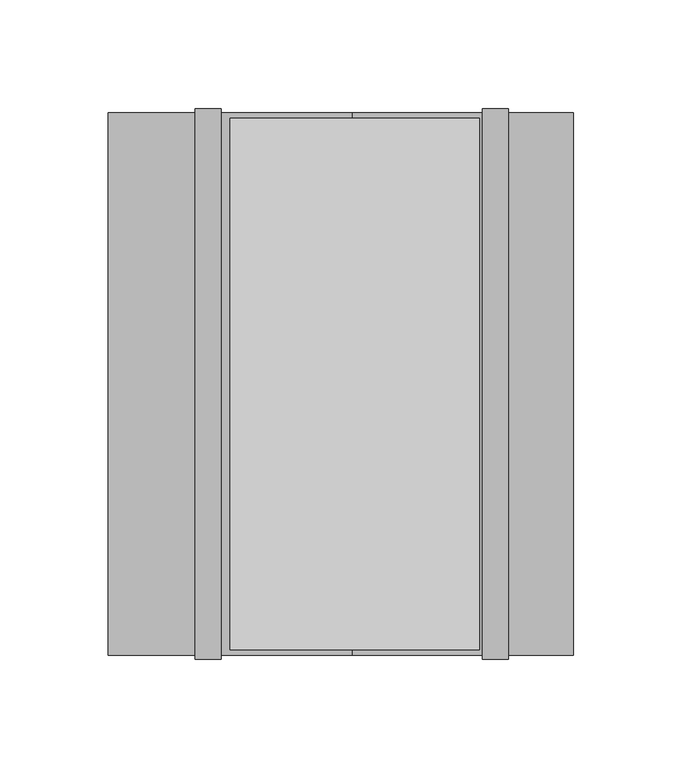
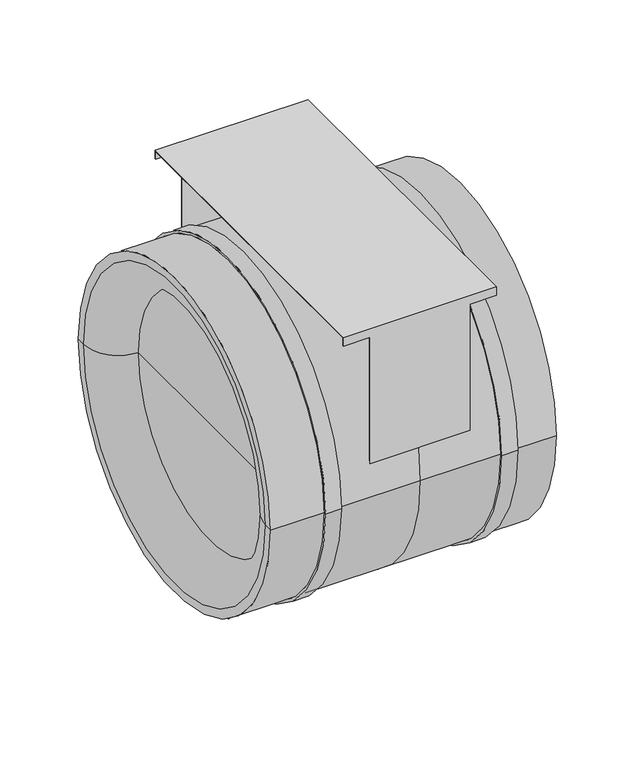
"""IFC4 building model written with IfcOpenShell, lengths in millimetres: unitary equipment geometry, VE-Wentylator-ParaForma-Harmann-JETTEC-Nawiewny : 250/1600S."""

from ifc_helpers import new_model, si_unit, point, frame, frame_2d, origin, place, context, project, spatial, polyline, circle_curve, ellipse_curve, trimmed, segment, composite_curve, outline, extrude, source, transform, mapped, element, save
from ifc_brep_helpers import plane_surface, cylinder_surface, revolved_surface, advanced_brep


def unitary_equipment_25998c49(model_context):
    return source(origin(), model_context, "Body", "SolidModel", [
        extrude(outline(composite_curve([segment(polyline([(-45.5, -47.7), (-45.5, 47.7)]), True, "CONTINUOUS"), segment(trimmed(circle_curve(frame_2d((-40.5, 47.7)), 5.0), [point((-45.5, 47.7))], [point((-40.5, 52.7))], False, "CARTESIAN"), True, "CONTINUOUS"), segment(polyline([(-40.5, 52.7), (40.5, 52.7)]), True, "CONTINUOUS"), segment(trimmed(circle_curve(frame_2d((40.5, 47.7)), 5.0), [point((40.5, 52.7))], [point((45.5, 47.7))], False, "CARTESIAN"), True, "CONTINUOUS"), segment(polyline([(45.5, 47.7), (45.5, -47.7)]), True, "CONTINUOUS"), segment(trimmed(circle_curve(frame_2d((40.5, -47.7)), 5.0), [point((45.5, -47.7))], [point((40.5, -52.7))], False, "CARTESIAN"), True, "CONTINUOUS"), segment(polyline([(40.5, -52.7), (-40.5, -52.7)]), True, "CONTINUOUS"), segment(trimmed(circle_curve(frame_2d((-40.5, -47.7)), 5.0), [point((-40.5, -52.7))], [point((-45.5, -47.7))], False, "CARTESIAN"), True, "CONTINUOUS")], self_intersect=False)), frame((0.0, -55.0, 0.0), z_axis=(0.0, 1.0, 0.0), x_axis=(0.0, 0.0, 1.0)), (0.0, 0.0, 1.0), 45.0),
        advanced_brep(
        [(58.8, 122.5, 125.0), (58.8, 122.5, 131.8), (58.8, -122.5, 131.8), (58.8, -122.5, 125.0), (58.8, -121.7, 125.0), (58.8, -121.7, 131.0), (58.8, 121.7, 131.0), (58.8, 121.7, 125.0), (38.8, 121.7, 125.0), (38.8, 122.5, 125.0), (-56.2, 121.7, 131.0), (-56.2, 121.7, 125.0), (-36.2, 121.7, 125.0), (-36.2, 121.7, 28.5326129), (38.8, 121.7, 28.5326129), (-56.2, -121.7, 131.0), (38.8, -121.7, 125.0), (38.8, -121.7, 28.5326129), (-36.2, -121.7, 28.5326129), (-36.2, -121.7, 125.0), (-56.2, -121.7, 125.0), (38.8, -122.5, 125.0), (-56.2, -122.5, 131.8), (-56.2, -122.5, 125.0), (-36.2, -122.5, 125.0), (-36.2, -122.5, 24.8746859), (38.8, -122.5, 24.8746859), (-56.2, 122.5, 131.8), (38.8, 122.5, 24.8746859), (-36.2, 122.5, 24.8746859), (-36.2, 122.5, 125.0), (-56.2, 122.5, 125.0)],
        [
            (0, 1),
            (1, 2),
            (2, 3),
            (3, 4),
            (4, 5),
            (5, 6),
            (6, 7),
            (7, 0),
            (7, 8),
            (8, 9),
            (9, 0),
            (6, 10),
            (10, 11),
            (11, 12),
            (12, 13),
            (13, 14),
            (14, 8),
            (5, 15),
            (15, 10),
            (4, 16),
            (16, 17),
            (17, 18),
            (18, 19),
            (19, 20),
            (20, 15),
            (3, 21),
            (21, 16),
            (2, 22),
            (22, 23),
            (23, 24),
            (24, 25),
            (25, 26),
            (26, 21),
            (1, 27),
            (27, 22),
            (9, 28),
            (28, 29),
            (29, 30),
            (30, 31),
            (31, 27),
            (29, 13, circle_curve(frame((-36.2, 0.0, 0.0), z_axis=(1.0, 0.0, 0.0), x_axis=(0.0, 1.0, 0.0)), 125.0)),
            (12, 30),
            (18, 25, circle_curve(frame((-36.2, 0.0, 0.0), z_axis=(1.0, 0.0, 0.0), x_axis=(0.0, 1.0, 0.0)), 125.0)),
            (24, 19),
            (14, 28, circle_curve(frame((38.8, 0.0, 0.0), z_axis=(-1.0, 0.0, 0.0), x_axis=(0.0, 1.0, 0.0)), 125.0)),
            (26, 17, circle_curve(frame((38.8, 0.0, 0.0), z_axis=(-1.0, 0.0, 0.0), x_axis=(0.0, 1.0, 0.0)), 125.0)),
            (31, 11),
            (20, 23),
        ],
        [
            plane_surface(frame((58.8, 0.0, 0.0), z_axis=(1.0, 0.0, 0.0), x_axis=(0.0, 0.0, 1.0))),
            plane_surface(frame((38.8, 122.5, 125.0), z_axis=(0.0, 0.0, -1.0), x_axis=(1.0, 0.0, 0.0))),
            plane_surface(frame((38.8, 121.7, 125.0), z_axis=(0.0, -1.0, 0.0), x_axis=(1.0, 0.0, 0.0))),
            plane_surface(frame((38.8, -113.0382235, 131.0), z_axis=(0.0, 0.0, -1.0), x_axis=(1.0, 0.0, 0.0))),
            plane_surface(frame((38.8, -121.7, 131.0), z_axis=(0.0, 1.0, 0.0), x_axis=(1.0, 0.0, 0.0))),
            plane_surface(frame((38.8, -121.7, 125.0), z_axis=(0.0, 0.0, -1.0), x_axis=(1.0, 0.0, 0.0))),
            plane_surface(frame((38.8, -122.5, 125.0), z_axis=(0.0, -1.0, 0.0), x_axis=(1.0, 0.0, 0.0))),
            plane_surface(frame((38.8, 112.5, 131.8), z_axis=(0.0, 0.0, 1.0), x_axis=(1.0, 0.0, 0.0))),
            plane_surface(frame((38.8, 122.5, 131.8), z_axis=(0.0, 1.0, 0.0), x_axis=(1.0, 0.0, 0.0))),
            plane_surface(frame((-36.2, 0.0, 0.0), z_axis=(-1.0, 0.0, 0.0), x_axis=(0.0, 0.0, 1.0))),
            plane_surface(frame((38.8, 0.0, 0.0), z_axis=(1.0, 0.0, 0.0), x_axis=(0.0, 0.0, 1.0))),
            revolved_surface(polyline([(-36.2, 125.0, 0.0), (38.8, 125.0, 0.0)]), (-36.2, 0.0, 0.0), (-1.0, 0.0, 0.0)),
            plane_surface(frame((-56.2, 0.0, 0.0), z_axis=(-1.0, 0.0, 0.0), x_axis=(0.0, 0.0, 1.0))),
            plane_surface(frame((-56.2, 122.5, 125.0), z_axis=(0.0, 0.0, -1.0), x_axis=(1.0, 0.0, 0.0))),
            plane_surface(frame((-56.2, -121.7, 125.0), z_axis=(0.0, 0.0, -1.0), x_axis=(1.0, 0.0, 0.0))),
        ],
        [
            (0, [[1, 2, 3, 4, 5, 6, 7, 8]]),
            (1, [[-8, 9, 10, 11]]),
            (2, [[-7, 12, 13, 14, 15, 16, 17, -9]]),
            (3, [[-12, -6, 18, 19]]),
            (4, [[-18, -5, 20, 21, 22, 23, 24, 25]]),
            (5, [[-4, 26, 27, -20]]),
            (6, [[-3, 28, 29, 30, 31, 32, 33, -26]]),
            (7, [[-28, -2, 34, 35]]),
            (8, [[-34, -1, -11, 36, 37, 38, 39, 40]]),
            (9, [[41, -15, 42, -38]]),
            (9, [[43, -31, 44, -23]]),
            (10, [[45, -36, -10, -17]]),
            (10, [[46, -21, -27, -33]]),
            (11, [[-41, -37, -45, -16]]),
            (11, [[-43, -22, -46, -32]]),
            (12, [[47, -13, -19, -25, 48, -29, -35, -40]]),
            (13, [[-47, -39, -42, -14]]),
            (14, [[-48, -24, -44, -30]]),
        ],
    ),
        advanced_brep(
        [(-60.3, 125.0, 0.0), (0.0, 125.0, 0.0), (0.0, -125.0, 0.0), (-60.3, -125.0, 0.0), (-112.3, -125.0, 0.0), (-112.3, 125.0, 0.0), (-72.3, 125.0, 0.0), (-72.3, -125.0, 0.0), (-112.3, -118.5, 0.0), (-112.3, 118.5, 0.0), (-86.3, -92.5, 0.0), (-86.3, 92.5, 0.0), (-86.3, 0.0, 0.0), (102.3, -125.0, 0.0), (102.3, 125.0, 0.0), (102.3, 0.0, 0.0), (72.3, -125.0, 0.0), (72.3, 125.0, 0.0), (60.3, 125.0, 0.0), (60.3, -125.0, 0.0), (-60.3, -127.0, 0.0), (-60.3, 127.0, 0.0), (-72.3, -127.0, 0.0), (-72.3, 127.0, 0.0), (72.3, -127.0, 0.0), (72.3, 127.0, 0.0), (60.3, -127.0, 0.0), (60.3, 127.0, 0.0)],
        [
            (0, 1),
            (1, 2, circle_curve(frame((0.0, 0.0, 0.0), z_axis=(-1.0, 0.0, 0.0), x_axis=(0.0, 1.0, 0.0)), 125.0)),
            (2, 3),
            (3, 0, circle_curve(frame((-60.3, 0.0, 0.0), z_axis=(1.0, 0.0, 0.0), x_axis=(0.0, 1.0, 0.0)), 125.0)),
            (0, 3, circle_curve(frame((-60.3, 0.0, 0.0), z_axis=(1.0, 0.0, 0.0), x_axis=(0.0, 1.0, 0.0)), 125.0)),
            (2, 1, circle_curve(frame((0.0, 0.0, 0.0), z_axis=(-1.0, 0.0, 0.0), x_axis=(0.0, 1.0, 0.0)), 125.0)),
            (4, 5, circle_curve(frame((-112.3, 0.0, 0.0), z_axis=(1.0, 0.0, 0.0), x_axis=(0.0, 1.0, 0.0)), 125.0)),
            (5, 6),
            (6, 7, circle_curve(frame((-72.3, 0.0, 0.0), z_axis=(-1.0, 0.0, 0.0), x_axis=(0.0, 1.0, 0.0)), 125.0)),
            (7, 4),
            (5, 4, circle_curve(frame((-112.3, 0.0, 0.0), z_axis=(1.0, 0.0, 0.0), x_axis=(0.0, 1.0, 0.0)), 125.0)),
            (7, 6, circle_curve(frame((-72.3, 0.0, 0.0), z_axis=(-1.0, 0.0, 0.0), x_axis=(0.0, 1.0, 0.0)), 125.0)),
            (4, 8),
            (8, 9, circle_curve(frame((-112.3, 0.0, 0.0), z_axis=(1.0, 0.0, 0.0), x_axis=(0.0, 1.0, 0.0)), 118.5)),
            (9, 5),
            (9, 8, circle_curve(frame((-112.3, 0.0, 0.0), z_axis=(1.0, 0.0, 0.0), x_axis=(0.0, 1.0, 0.0)), 118.5)),
            (8, 10, circle_curve(frame((-86.3, -118.5, 0.0), z_axis=(0.0, 0.0, -1.0), x_axis=(1.0, 0.0, 0.0)), 26.0)),
            (10, 11, circle_curve(frame((-86.3, 0.0, 0.0), z_axis=(1.0, 0.0, 0.0), x_axis=(0.0, 1.0, 0.0)), 92.5)),
            (11, 9, circle_curve(frame((-86.3, 118.5, 0.0), z_axis=(0.0, 0.0, -1.0), x_axis=(1.0, 0.0, 0.0)), 26.0)),
            (11, 10, circle_curve(frame((-86.3, 0.0, 0.0), z_axis=(1.0, 0.0, 0.0), x_axis=(0.0, 1.0, 0.0)), 92.5)),
            (10, 12),
            (12, 11),
            (13, 14, circle_curve(frame((102.3, 0.0, 0.0), z_axis=(1.0, 0.0, 0.0), x_axis=(0.0, 1.0, 0.0)), 125.0)),
            (14, 15),
            (15, 13),
            (14, 13, circle_curve(frame((102.3, 0.0, 0.0), z_axis=(1.0, 0.0, 0.0), x_axis=(0.0, 1.0, 0.0)), 125.0)),
            (13, 16),
            (16, 17, circle_curve(frame((72.3, 0.0, 0.0), z_axis=(1.0, 0.0, 0.0), x_axis=(0.0, 1.0, 0.0)), 125.0)),
            (17, 14),
            (17, 16, circle_curve(frame((72.3, 0.0, 0.0), z_axis=(1.0, 0.0, 0.0), x_axis=(0.0, 1.0, 0.0)), 125.0)),
            (1, 18),
            (18, 19, circle_curve(frame((60.3, 0.0, 0.0), z_axis=(-1.0, 0.0, 0.0), x_axis=(0.0, 1.0, 0.0)), 125.0)),
            (19, 2),
            (19, 18, circle_curve(frame((60.3, 0.0, 0.0), z_axis=(-1.0, 0.0, 0.0), x_axis=(0.0, 1.0, 0.0)), 125.0)),
            (20, 21, circle_curve(frame((-60.3, 0.0, 0.0), z_axis=(1.0, 0.0, 0.0), x_axis=(0.0, 1.0, 0.0)), 127.0)),
            (21, 0),
            (3, 20),
            (21, 20, circle_curve(frame((-60.3, 0.0, 0.0), z_axis=(1.0, 0.0, 0.0), x_axis=(0.0, 1.0, 0.0)), 127.0)),
            (20, 22),
            (22, 23, circle_curve(frame((-72.3, 0.0, 0.0), z_axis=(1.0, 0.0, 0.0), x_axis=(0.0, 1.0, 0.0)), 127.0)),
            (23, 21),
            (23, 22, circle_curve(frame((-72.3, 0.0, 0.0), z_axis=(1.0, 0.0, 0.0), x_axis=(0.0, 1.0, 0.0)), 127.0)),
            (22, 7),
            (6, 23),
            (24, 25, circle_curve(frame((72.3, 0.0, 0.0), z_axis=(1.0, 0.0, 0.0), x_axis=(0.0, 1.0, 0.0)), 127.0)),
            (25, 17),
            (16, 24),
            (25, 24, circle_curve(frame((72.3, 0.0, 0.0), z_axis=(1.0, 0.0, 0.0), x_axis=(0.0, 1.0, 0.0)), 127.0)),
            (24, 26),
            (26, 27, circle_curve(frame((60.3, 0.0, 0.0), z_axis=(1.0, 0.0, 0.0), x_axis=(0.0, 1.0, 0.0)), 127.0)),
            (27, 25),
            (27, 26, circle_curve(frame((60.3, 0.0, 0.0), z_axis=(1.0, 0.0, 0.0), x_axis=(0.0, 1.0, 0.0)), 127.0)),
            (26, 19),
            (18, 27),
        ],
        [
            cylinder_surface(frame((-86.3, 0.0, 0.0), z_axis=(-1.0, 0.0, 0.0), x_axis=(0.0, 1.0, 0.0)), 125.0),
            plane_surface(frame((-112.3, 0.0, 0.0), z_axis=(-1.0, 0.0, 0.0), x_axis=(0.0, 1.0, 0.0))),
            revolved_surface(trimmed(ellipse_curve(frame((-86.3, 118.5, 0.0), z_axis=(0.0, 0.0, 1.0), x_axis=(1.0, 0.0, 0.0)), 26.0, 26.0), [point((-112.3, 118.5, 0.0))], [point((-86.3, 92.5, 0.0))], True, "CARTESIAN"), (-86.3, 0.0, 0.0), (-1.0, 0.0, 0.0)),
            plane_surface(frame((-86.3, 0.0, 0.0), z_axis=(-1.0, 0.0, 0.0), x_axis=(0.0, 1.0, 0.0))),
            plane_surface(frame((102.3, 0.0, 0.0), z_axis=(1.0, 0.0, 0.0), x_axis=(0.0, 1.0, 0.0))),
            cylinder_surface(frame((0.0, 0.0, 0.0), z_axis=(-1.0, 0.0, 0.0), x_axis=(0.0, 1.0, 0.0)), 125.0),
            plane_surface(frame((-60.3, 0.0, 0.0), z_axis=(1.0, 0.0, 0.0), x_axis=(0.0, 1.0, 0.0))),
            cylinder_surface(frame((-72.3, 0.0, 0.0), z_axis=(-1.0, 0.0, 0.0), x_axis=(0.0, 1.0, 0.0)), 127.0),
            plane_surface(frame((-72.3, 0.0, 0.0), z_axis=(-1.0, 0.0, 0.0), x_axis=(0.0, 1.0, 0.0))),
            plane_surface(frame((72.3, 0.0, 0.0), z_axis=(1.0, 0.0, 0.0), x_axis=(0.0, 1.0, 0.0))),
            plane_surface(frame((60.3, 0.0, 0.0), z_axis=(-1.0, 0.0, 0.0), x_axis=(0.0, 1.0, 0.0))),
        ],
        [
            (0, [[1, 2, 3, 4]]),
            (0, [[-1, 5, -3, 6]]),
            (0, [[7, 8, 9, 10]]),
            (0, [[-8, 11, -10, 12]]),
            (1, [[-7, 13, 14, 15]]),
            (1, [[-11, -15, 16, -13]]),
            (2, [[-14, 17, 18, 19]]),
            (2, [[-16, -19, 20, -17]]),
            (3, [[-18, 21, 22]]),
            (3, [[-20, -22, -21]]),
            (4, [[23, 24, 25]]),
            (4, [[-24, 26, -25]]),
            (5, [[-23, 27, 28, 29]]),
            (5, [[-26, -29, 30, -27]]),
            (5, [[31, 32, 33, -2]]),
            (5, [[-31, -6, -33, 34]]),
            (6, [[35, 36, -4, 37]]),
            (6, [[38, -37, -5, -36]]),
            (7, [[-35, 39, 40, 41]]),
            (7, [[-38, -41, 42, -39]]),
            (8, [[-40, 43, -9, 44]]),
            (8, [[-42, -44, -12, -43]]),
            (9, [[45, 46, -28, 47]]),
            (9, [[48, -47, -30, -46]]),
            (7, [[-45, 49, 50, 51]]),
            (7, [[-48, -51, 52, -49]]),
            (10, [[-50, 53, -32, 54]]),
            (10, [[-52, -54, -34, -53]]),
        ],
    ),
    ])


if __name__ == "__main__":
    model = new_model("IFC4")
    model_context = context("Model", 3, world=origin())
    ifc_project = project(units=[si_unit("LENGTHUNIT", "METRE", prefix="MILLI")], contexts=[model_context])
    site = spatial("IfcSite", under=ifc_project)
    building = spatial("IfcBuilding", under=site)
    placement = place(None, origin())
    unitary_equipment_shape = unitary_equipment_25998c49(model_context)
    element("IfcUnitaryEquipment", 1, ObjectType="VE-Wentylator-ParaForma-Harmann-JETTEC-Nawiewny : 250/1600S", at=placement, inside=building, context=model_context, shape_type="MappedRepresentation", body=[
        mapped(unitary_equipment_shape, transform((0.0, 0.0, 0.0), x_axis=(1.0, 0.0, 0.0), y_axis=(0.0, 1.0, 0.0), z_axis=(0.0, 0.0, 1.0))),
    ])
    save(model, "model.ifc")
